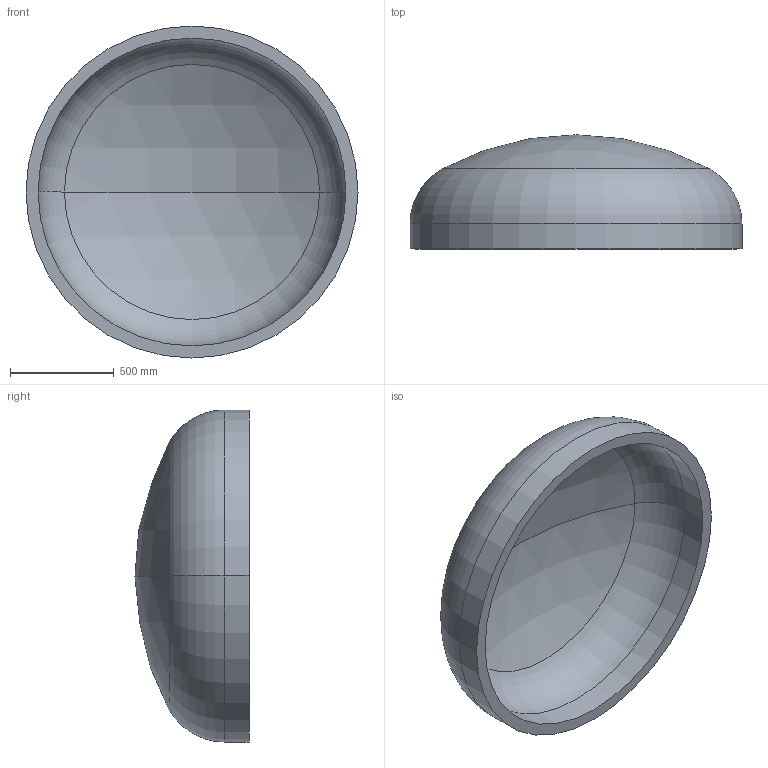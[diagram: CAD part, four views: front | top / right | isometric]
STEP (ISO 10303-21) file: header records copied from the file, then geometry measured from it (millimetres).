
FILE_DESCRIPTION (( 'STEP AP203' ), '1' );
FILE_NAME ('DIN 28013 Korbbogenform_-_Boden DIN 28013 - 1600 x 120 - I - s=58.step', '2016-07-01T11:21:22', ( '' ), ( '' ), 'SwSTEP 2.0', 'SolidWorks 2013', '' );
FILE_SCHEMA (( 'CONFIG_CONTROL_DESIGN' ));
Length unit declared in the file: millimetre
Products named in the file (1): DIN 28013 Korbbogenform_-_Boden DIN 28013 - 1600 x 120 - I - s=58
Bounding box: 1600 x 550.14 x 1600 mm (x, y, z)
Volume: 187617922 mm3; surface area: 6757598.7 mm2
Topology: 1 solids, 1 shells, 13 faces, 24 edges, 14 vertices
Faces by surface type: torus 4, cylinder 4, sphere 4, plane 1
Entity records: 407 total; most frequent: DIRECTION 72, CARTESIAN_POINT 52, ORIENTED_EDGE 48, AXIS2_PLACEMENT_3D 34, EDGE_CURVE 24, CIRCLE 20, EDGE_LOOP 14, VERTEX_POINT 14
